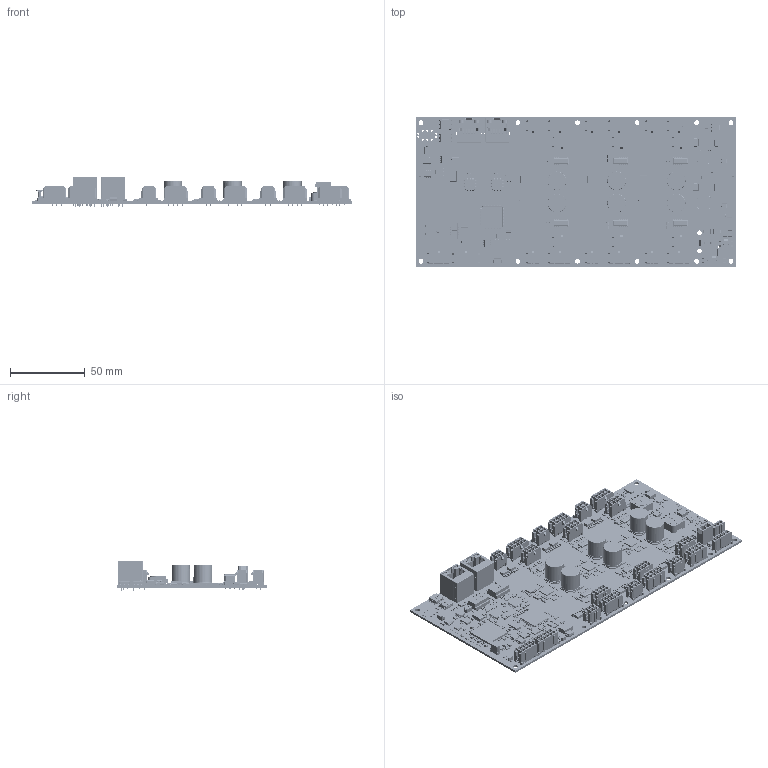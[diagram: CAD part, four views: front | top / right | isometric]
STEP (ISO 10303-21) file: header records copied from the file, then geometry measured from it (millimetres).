
FILE_DESCRIPTION(/* description */ (''),/* implementation_level */ '2;1');
FILE_NAME(/* name */ 'C:/Users/buesch/Desktop/Büsch/Module/TMCM-6211_v11.step',/* time_stamp */ '2019-05-15T12:29:20+02:00',/* author */ (''),/* organization */ (''),/* preprocessor_version */ 'ST-DEVELOPER v18',/* originating_system */ 'Autodesk Translation Framework v8.2.0.1029',/* authorisation */ '');
FILE_SCHEMA (('AUTOMOTIVE_DESIGN { 1 0 10303 214 3 1 1 }'));
Products named in the file (641): (Nicht gespeichert); Outline; c_el_D13_D125_L135; c_el_D13_D125_L136; c_el_D13_D125_L137; c_el_D13_D125_L138; c_el_D13_D125_L139; c_el_D13_D125_L140; Chamfer; Array; Array001; #883958; Chamfer001; Array002; Array003; #883962; Chamfer002; Array004; Array005; #883966; Chamfer003; Array006; Array007; #883970; User_Library-DO214AA; User_Library-SOT23-6; User_Library-SOT23-007; Chamfer004; Cut; Chamfer005; Cut001; Chamfer006; Cut002; Cut003; Chamfer007; Chamfer008; Cut004; Chamfer009; Array008; Array009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
Assembly tree (1156 placements, depth 2):
  (Nicht gespeichert)
    Outline
    c_el_D13_D125_L135
    c_el_D13_D125_L136
    c_el_D13_D125_L137
    c_el_D13_D125_L138
    c_el_D13_D125_L139
    c_el_D13_D125_L140
    Chamfer
    Array
    Array001
    #883958
    Chamfer001
    Array002
    Array003
    #883962
    Chamfer002
    Array004
    Array005
    #883966
    Chamfer003
    Array006
    Array007
    #883970
    User_Library-DO214AA
    User_Library-SOT23-6
    User_Library-SOT23-007
    Chamfer004
    Cut
    Chamfer005
    Cut001
    Chamfer006
    Cut002
    Cut003
    Chamfer007
    Chamfer008
    Cut004
    Chamfer009
    Array008
    Array009
    #883987
    Chamfer010
    Array010
    Array011
    #883991
    User_Library-SOT23-008
    Chamfer011
    Array012
    Array013
    #883996
    Chamfer012
    Array014
    Array015
    #884000
    COMPOUND
    COMPOUND001
    COMPOUND002
    COMPOUND003
    COMPOUND004
    COMPOUND005
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Bounding box: 215 x 100 x 20.65 mm (x, y, z)
Volume: 67987.1 mm3; surface area: 107345.6 mm2
Topology: 1114 solids, 1114 shells, 31941 faces, 81462 edges, 51417 vertices
Faces by surface type: plane 22196, cylinder 6599, torus 1163, bspline 1030, sphere 911, cone 42
Full cylindrical faces by diameter (mm): 0.08 x32, 0.3 x3, 0.4 x4, 0.402 x2, 0.404 x2, 0.432 x8, 0.469 x4, 0.5 x9, 0.7 x2, 0.86 x40, 0.98 x2, 1 x29, 1.02 x4, 1.1 x168, 1.2 x6, 1.27 x4, 1.3 x4, 1.5 x2, 1.7 x4, 1.8 x2, 3 x2, 3.2 x12, 3.25 x4, 3.35 x2, 3.42 x2, 3.5 x2, 4 x2, 9.5 x2, 10 x2, 12.5 x12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
Entity records: 884424 total; most frequent: CARTESIAN_POINT 242414, ORIENTED_EDGE 129910, DIRECTION 122763, EDGE_CURVE 64955, LINE 52687, VECTOR 52687, VERTEX_POINT 42190, AXIS2_PLACEMENT_3D 35038
